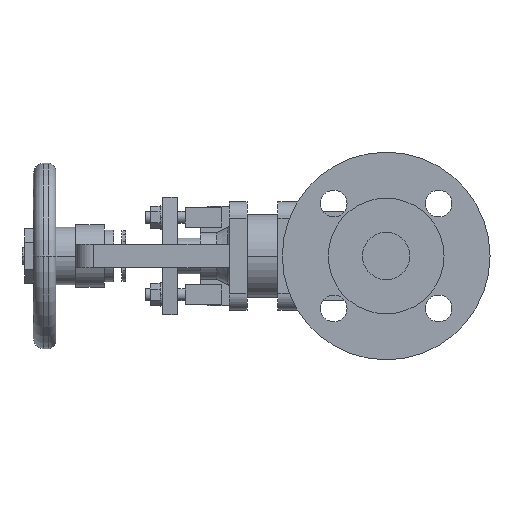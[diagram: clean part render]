
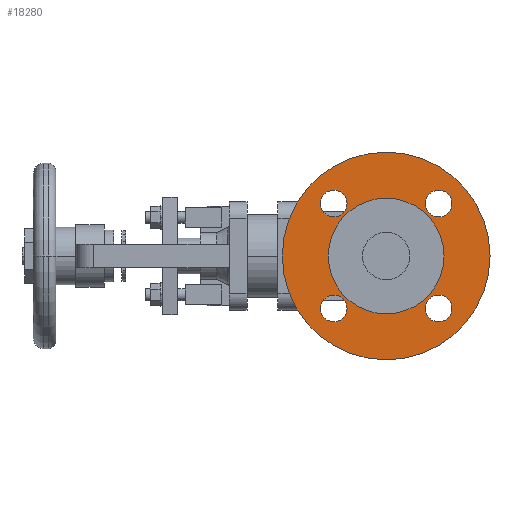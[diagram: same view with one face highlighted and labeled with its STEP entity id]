
A CAD part, left-side view. The second image highlights one B-rep face of the part: STEP entity #18280.
In plain terms, the highlighted planar face has unit normal (-1, 0, 0).
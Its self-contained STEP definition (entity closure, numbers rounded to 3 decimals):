
#610=CARTESIAN_POINT('',(2.,-39.,0.));
#620=VERTEX_POINT('',#610);
#780=CARTESIAN_POINT('',(2.,39.,0.));
#790=VERTEX_POINT('',#780);
#820=CARTESIAN_POINT('',(2.,0.,0.));
#830=DIRECTION('',(-1.,0.,0.));
#840=DIRECTION('',(0.,1.,0.));
#850=AXIS2_PLACEMENT_3D('',#820,#830,#840);
#860=CIRCLE('',#850,39.);
#870=EDGE_CURVE('',#620,#790,#860,.T.);
#3330=CARTESIAN_POINT('',(2.,0.,70.));
#3340=VERTEX_POINT('',#3330);
#3500=CARTESIAN_POINT('',(2.,0.,-70.));
#3510=VERTEX_POINT('',#3500);
#3540=CARTESIAN_POINT('',(2.,0.,0.));
#3550=DIRECTION('',(1.,0.,0.));
#3560=DIRECTION('',(0.,0.,-1.));
#3570=AXIS2_PLACEMENT_3D('',#3540,#3550,#3560);
#3580=CIRCLE('',#3570,70.);
#3590=EDGE_CURVE('',#3340,#3510,#3580,.T.);
#3820=CARTESIAN_POINT('',(2.,35.355,-26.355));
#3830=VERTEX_POINT('',#3820);
#3990=CARTESIAN_POINT('',(2.,35.355,-44.355));
#4000=VERTEX_POINT('',#3990);
#4030=CARTESIAN_POINT('',(2.,35.355,-35.355));
#4040=DIRECTION('',(1.,0.,0.));
#4050=DIRECTION('',(0.,0.,-1.));
#4060=AXIS2_PLACEMENT_3D('',#4030,#4040,#4050);
#4070=CIRCLE('',#4060,9.);
#4080=EDGE_CURVE('',#4000,#3830,#4070,.T.);
#4310=CARTESIAN_POINT('',(2.,-35.355,-26.355));
#4320=VERTEX_POINT('',#4310);
#4350=CARTESIAN_POINT('',(2.,-35.355,-35.355));
#4360=DIRECTION('',(1.,0.,0.));
#4370=DIRECTION('',(0.,0.,-1.));
#4380=AXIS2_PLACEMENT_3D('',#4350,#4360,#4370);
#4390=CIRCLE('',#4380,9.);
#4400=CARTESIAN_POINT('',(2.,-35.355,-44.355));
#4410=VERTEX_POINT('',#4400);
#4420=EDGE_CURVE('',#4320,#4410,#4390,.T.);
#4800=CARTESIAN_POINT('',(2.,35.355,26.355));
#4810=VERTEX_POINT('',#4800);
#4970=CARTESIAN_POINT('',(2.,35.355,44.355));
#4980=VERTEX_POINT('',#4970);
#5010=CARTESIAN_POINT('',(2.,35.355,35.355));
#5020=DIRECTION('',(1.,0.,0.));
#5030=DIRECTION('',(0.,0.,-1.));
#5040=AXIS2_PLACEMENT_3D('',#5010,#5020,#5030);
#5050=CIRCLE('',#5040,9.);
#5060=EDGE_CURVE('',#4980,#4810,#5050,.T.);
#5290=CARTESIAN_POINT('',(2.,-35.355,44.355));
#5300=VERTEX_POINT('',#5290);
#5460=CARTESIAN_POINT('',(2.,-35.355,26.355));
#5470=VERTEX_POINT('',#5460);
#5500=CARTESIAN_POINT('',(2.,-35.355,35.355));
#5510=DIRECTION('',(1.,0.,0.));
#5520=DIRECTION('',(0.,0.,-1.));
#5530=AXIS2_PLACEMENT_3D('',#5500,#5510,#5520);
#5540=CIRCLE('',#5530,9.);
#5550=EDGE_CURVE('',#5470,#5300,#5540,.T.);
#17930=CARTESIAN_POINT('',(2.,0.,0.));
#17940=DIRECTION('',(1.,0.,0.));
#17950=DIRECTION('',(0.,0.,-1.));
#17960=AXIS2_PLACEMENT_3D('',#17930,#17940,#17950);
#17970=PLANE('',#17960);
#17980=EDGE_CURVE('',#5300,#5470,#5540,.T.);
#17990=ORIENTED_EDGE('',*,*,#17980,.T.);
#18000=ORIENTED_EDGE('',*,*,#5550,.T.);
#18010=EDGE_LOOP('',(#18000,#17990));
#18020=FACE_BOUND('',#18010,.T.);
#18030=EDGE_CURVE('',#4810,#4980,#5050,.T.);
#18040=ORIENTED_EDGE('',*,*,#18030,.T.);
#18050=ORIENTED_EDGE('',*,*,#5060,.T.);
#18060=EDGE_LOOP('',(#18050,#18040));
#18070=FACE_BOUND('',#18060,.T.);
#18080=ORIENTED_EDGE('',*,*,#4420,.T.);
#18090=EDGE_CURVE('',#4410,#4320,#4390,.T.);
#18100=ORIENTED_EDGE('',*,*,#18090,.T.);
#18110=EDGE_LOOP('',(#18100,#18080));
#18120=FACE_BOUND('',#18110,.T.);
#18130=EDGE_CURVE('',#3830,#4000,#4070,.T.);
#18140=ORIENTED_EDGE('',*,*,#18130,.T.);
#18150=ORIENTED_EDGE('',*,*,#4080,.T.);
#18160=EDGE_LOOP('',(#18150,#18140));
#18170=FACE_BOUND('',#18160,.T.);
#18180=EDGE_CURVE('',#3510,#3340,#3580,.T.);
#18190=ORIENTED_EDGE('',*,*,#18180,.F.);
#18200=ORIENTED_EDGE('',*,*,#3590,.F.);
#18210=EDGE_LOOP('',(#18200,#18190));
#18220=FACE_OUTER_BOUND('',#18210,.T.);
#18230=EDGE_CURVE('',#790,#620,#860,.T.);
#18240=ORIENTED_EDGE('',*,*,#18230,.F.);
#18250=ORIENTED_EDGE('',*,*,#870,.F.);
#18260=EDGE_LOOP('',(#18250,#18240));
#18270=FACE_BOUND('',#18260,.T.);
#18280=ADVANCED_FACE('',(#18020,#18070,#18120,#18170,#18220,#18270),
#17970,.F.);
